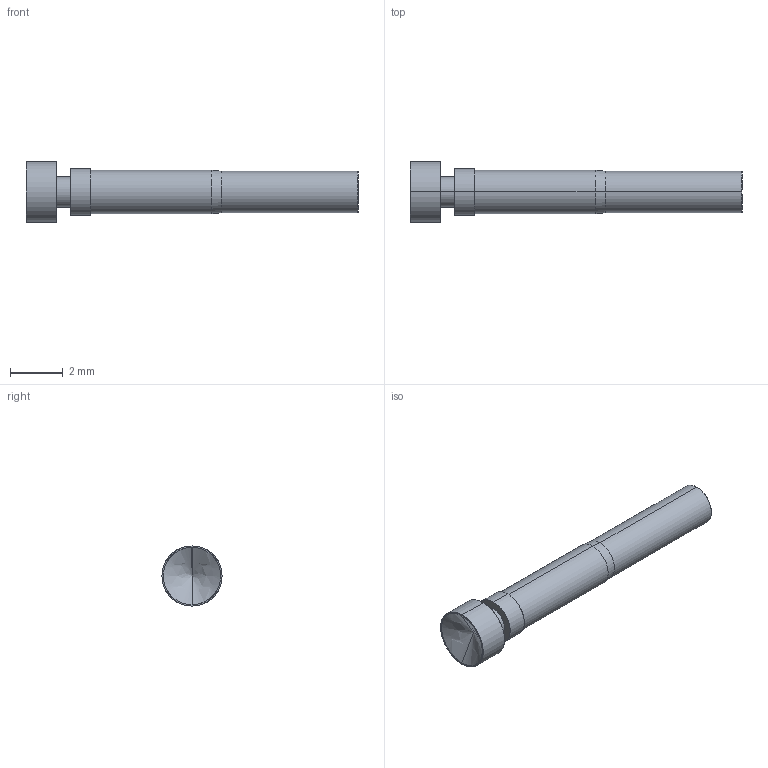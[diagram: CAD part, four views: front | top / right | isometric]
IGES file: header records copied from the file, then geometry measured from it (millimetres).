
Start section: SolidWorks IGES file using analytic representation for surfaces
Global section: file name: O:\PYLON\IGES FILES\E-S\E-S-V REC'D.IGS; native system: SolidWorks 2015; preprocessor: SolidWorks 2015; author: kgolden; date: 171024.085457; units: inch
Bounding box: 12.62 x 2.29 x 2.29 mm (x, y, z)
Surface area: 86.7 mm2 (no closed solid volume)
Topology: 0 solids, 0 shells, 22 faces, 320 edges, 318 vertices
Faces by surface type: revolution 16, bspline 6
